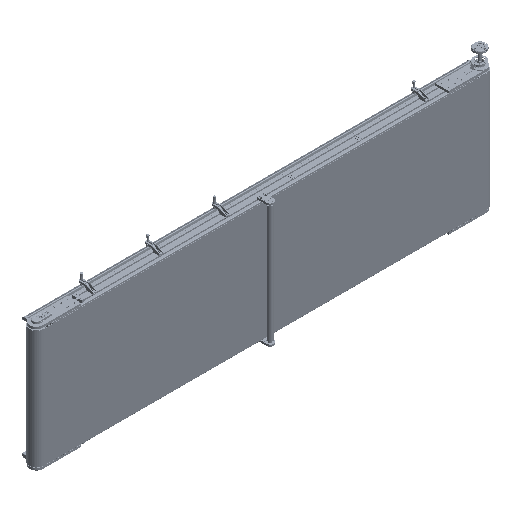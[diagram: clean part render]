
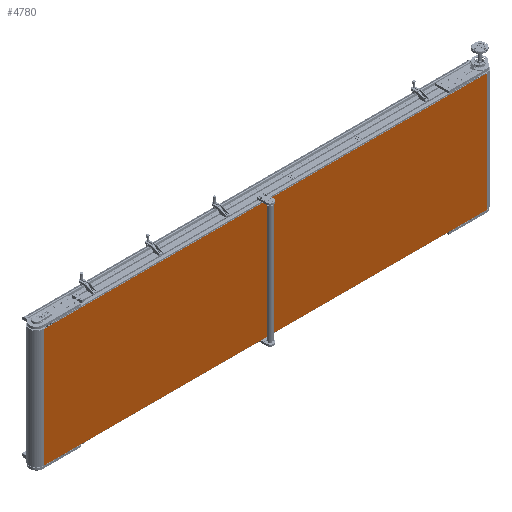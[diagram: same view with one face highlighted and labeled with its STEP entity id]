
A CAD part, isometric view. The second image highlights one B-rep face of the part: STEP entity #4780.
In plain terms, the highlighted planar face has unit normal (0, -1, 0).
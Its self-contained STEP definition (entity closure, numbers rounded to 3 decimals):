
#3149 = DIRECTION ( 'NONE',  ( 1., 0., 0. ) ) ;
#4780 = ADVANCED_FACE ( 'NONE', ( #26226 ), #106865, .F. ) ;
#5225 = EDGE_CURVE ( 'NONE', #74215, #6310, #68918, .T. ) ;
#6310 = VERTEX_POINT ( 'NONE', #6618 ) ;
#6618 = CARTESIAN_POINT ( 'NONE',  ( 1500., -49.5, 400. ) ) ;
#11098 = ORIENTED_EDGE ( 'NONE', *, *, #113800, .T. ) ;
#15235 = CARTESIAN_POINT ( 'NONE',  ( -1500., -49.5, 400. ) ) ;
#26226 = FACE_OUTER_BOUND ( 'NONE', #64936, .T. ) ;
#31479 = CARTESIAN_POINT ( 'NONE',  ( 1500., -49.5, -400. ) ) ;
#31982 = DIRECTION ( 'NONE',  ( 1., 0., 0. ) ) ;
#33085 = CARTESIAN_POINT ( 'NONE',  ( -1500., -49.5, 400. ) ) ;
#35662 = LINE ( 'NONE', #86572, #84985 ) ;
#36321 = VERTEX_POINT ( 'NONE', #93108 ) ;
#41099 = CARTESIAN_POINT ( 'NONE',  ( -1500., -49.5, 400. ) ) ;
#41553 = DIRECTION ( 'NONE',  ( 0., 0., -1. ) ) ;
#53383 = VECTOR ( 'NONE', #3149, 1000. ) ;
#55093 = DIRECTION ( 'NONE',  ( 0., 0., 1. ) ) ;
#64936 = EDGE_LOOP ( 'NONE', ( #148764, #107522, #167262, #11098 ) ) ;
#68918 = LINE ( 'NONE', #164550, #53383 ) ;
#72318 = LINE ( 'NONE', #124951, #150515 ) ;
#74215 = VERTEX_POINT ( 'NONE', #33085 ) ;
#81823 = VERTEX_POINT ( 'NONE', #31479 ) ;
#81893 = LINE ( 'NONE', #15235, #160521 ) ;
#84985 = VECTOR ( 'NONE', #112843, 1000. ) ;
#86572 = CARTESIAN_POINT ( 'NONE',  ( 1500., -49.5, 400. ) ) ;
#86998 = AXIS2_PLACEMENT_3D ( 'NONE', #41099, #122650, #55093 ) ;
#90672 = EDGE_CURVE ( 'NONE', #6310, #81823, #35662, .T. ) ;
#93108 = CARTESIAN_POINT ( 'NONE',  ( -1500., -49.5, -400. ) ) ;
#106865 = PLANE ( 'NONE',  #86998 ) ;
#107522 = ORIENTED_EDGE ( 'NONE', *, *, #90672, .F. ) ;
#112843 = DIRECTION ( 'NONE',  ( 0., 0., -1. ) ) ;
#113800 = EDGE_CURVE ( 'NONE', #74215, #36321, #81893, .T. ) ;
#122650 = DIRECTION ( 'NONE',  ( 0., 1., 0. ) ) ;
#124951 = CARTESIAN_POINT ( 'NONE',  ( -1500., -49.5, -400. ) ) ;
#139857 = EDGE_CURVE ( 'NONE', #36321, #81823, #72318, .T. ) ;
#148764 = ORIENTED_EDGE ( 'NONE', *, *, #139857, .T. ) ;
#150515 = VECTOR ( 'NONE', #31982, 1000. ) ;
#160521 = VECTOR ( 'NONE', #41553, 1000. ) ;
#164550 = CARTESIAN_POINT ( 'NONE',  ( -1500., -49.5, 400. ) ) ;
#167262 = ORIENTED_EDGE ( 'NONE', *, *, #5225, .F. ) ;
